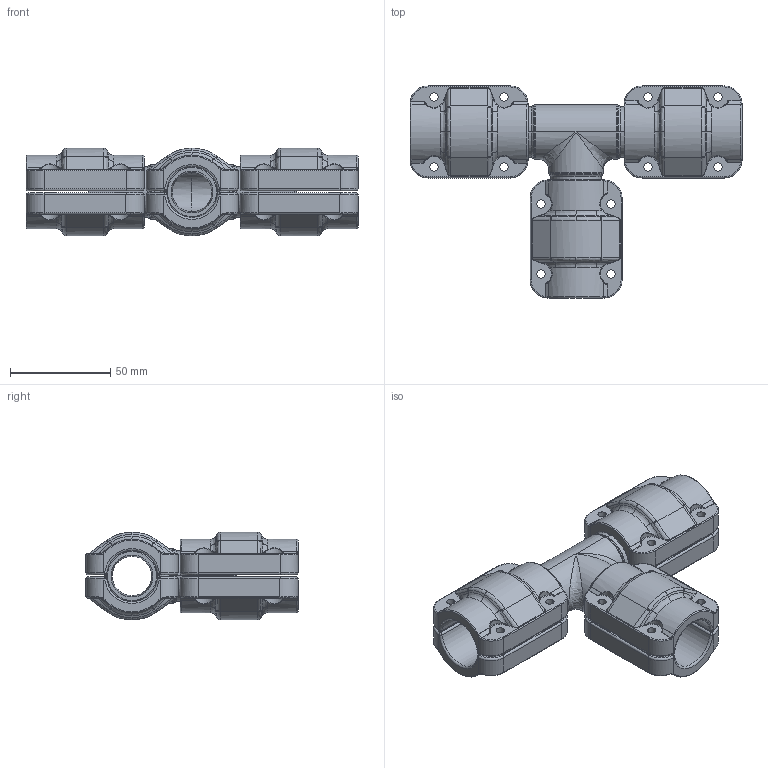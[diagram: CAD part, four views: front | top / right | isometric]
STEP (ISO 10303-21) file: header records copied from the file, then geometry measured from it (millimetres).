
FILE_DESCRIPTION((''),'2;1');
FILE_NAME('2015200599_ASM_6_ASM','2017-05-15T',('Administrator'),(''),'PRO/ENGINEER BY PARAMETRIC TECHNOLOGY CORPORATION, 2009360','PRO/ENGINEER BY PARAMETRIC TECHNOLOGY CORPORATION, 2009360','');
FILE_SCHEMA(('AUTOMOTIVE_DESIGN_CC2 { 1 2 10303 214 -1 1 5 2 }'));
Length unit declared in the file: millimetre
Products named in the file (5): 2015200500_10; 201520020000_23_1; 201520020001_10_1; 2015200200_ASM_1_ASM; 2015200599_ASM_6_ASM
Assembly tree (6 placements, depth 3):
  2015200599_ASM_6_ASM
    2015200500_10
    2015200200_ASM_1_ASM  x3
      201520020000_23_1
      201520020001_10_1
Bounding box: 166 x 106 x 43.8 mm (x, y, z)
Volume: 179689.9 mm3; surface area: 73524.3 mm2
Topology: 7 solids, 7 shells, 1000 faces, 2375 edges, 1360 vertices
Faces by surface type: bspline 434, cylinder 299, torus 144, plane 87, sphere 24, cone 12
Entity records: 18813 total; most frequent: CARTESIAN_POINT 8649, ORIENTED_EDGE 1734, DIRECTION 1324, PRESENTATION_STYLE_ASSIGNMENT 870, STYLED_ITEM 870, CURVE_STYLE 867, EDGE_CURVE 867, AXIS2_PLACEMENT_3D 574
